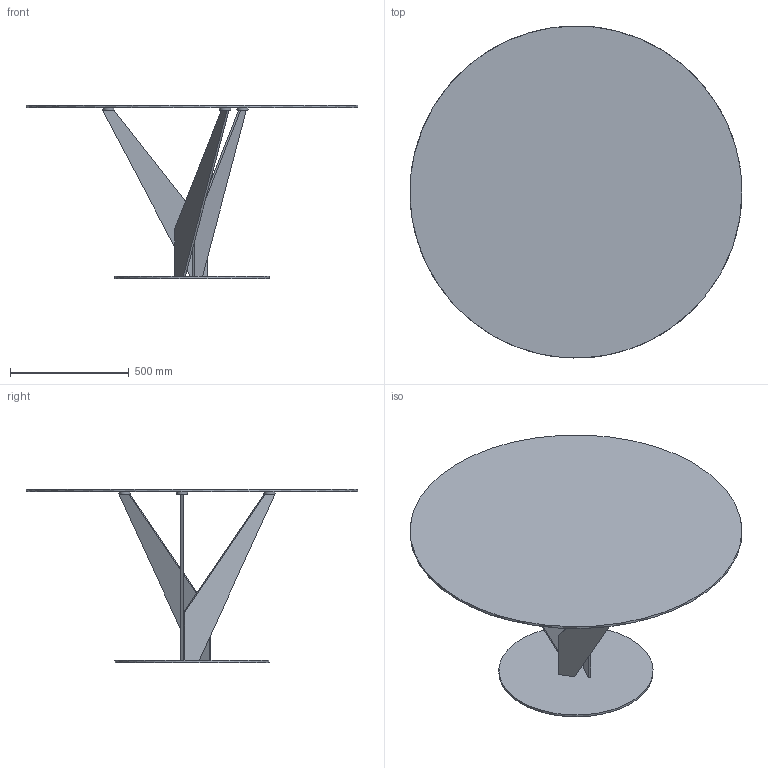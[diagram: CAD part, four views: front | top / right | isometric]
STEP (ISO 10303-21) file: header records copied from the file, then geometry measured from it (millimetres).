
FILE_DESCRIPTION(/* description */ (''),/* implementation_level */ '2;1');
FILE_NAME(/* name */ 'EPSYLO~1',/* time_stamp */ '2021-10-04T18:31:03+02:00',/* author */ (''),/* organization */ (''),/* preprocessor_version */ 'ST-DEVELOPER v16.5',/* originating_system */ '',/* authorisation */ '');
FILE_SCHEMA (('AUTOMOTIVE_DESIGN'));
Length unit declared in the file: millimetre
Products named in the file (1): Document
Bounding box: 1399.69 x 1399.79 x 731 mm (x, y, z)
Volume: 21429596.4 mm3; surface area: 4383634.3 mm2
Topology: 9 solids, 9 shells, 44 faces, 78 edges, 52 vertices
Faces by surface type: plane 39, bspline 5
Entity records: 1134 total; most frequent: CARTESIAN_POINT 409, ORIENTED_EDGE 156, EDGE_CURVE 78, B_SPLINE_CURVE_WITH_KNOTS 68, VERTEX_POINT 52, ADVANCED_FACE 44, FACE_OUTER_BOUND 44, EDGE_LOOP 44
